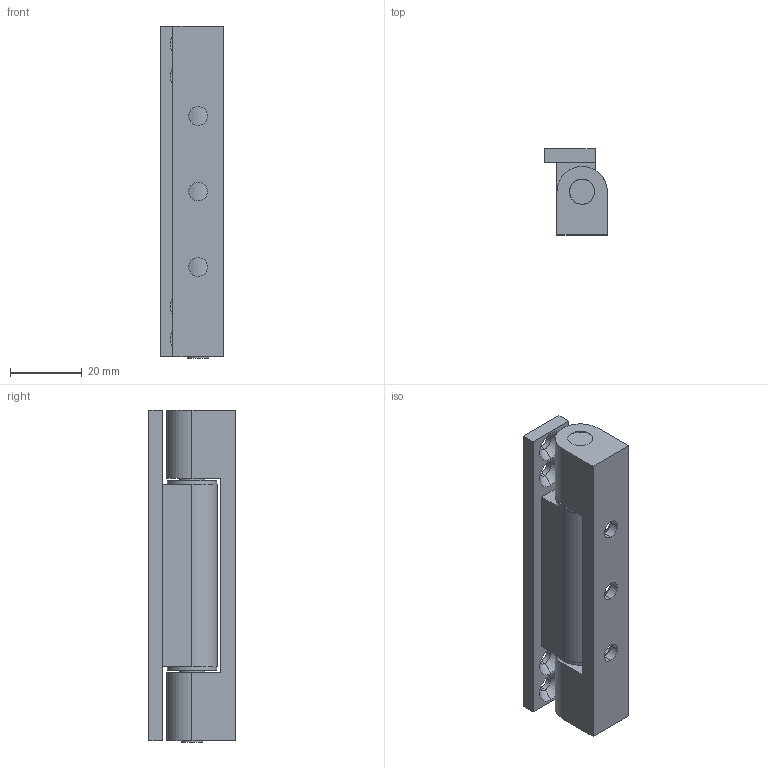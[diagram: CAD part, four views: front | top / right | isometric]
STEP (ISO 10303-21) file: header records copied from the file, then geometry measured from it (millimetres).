
FILE_DESCRIPTION (( 'STEP AP203' ), '1' );
FILE_NAME ('XG02-081-1.STEP', '2023-12-11T03:14:42', ( '' ), ( '' ), 'SwSTEP 2.0', 'SolidWorks 2020', '' );
FILE_SCHEMA (( 'CONFIG_CONTROL_DESIGN' ));
Length unit declared in the file: millimetre
Products named in the file (5): HL027-3; HL027-2; XG02-081-1; HL027-1; HL027-4
Assembly tree (5 placements, depth 2):
  XG02-081-1
    HL027-1
    HL027-2
    HL027-3
    HL027-4  x2
Bounding box: 17.4 x 24 x 92.3 mm (x, y, z)
Volume: 25235.7 mm3; surface area: 15660.6 mm2
Topology: 5 solids, 5 shells, 92 faces, 211 edges, 136 vertices
Faces by surface type: cylinder 48, plane 30, cone 14
Entity records: 2992 total; most frequent: DIRECTION 473, CARTESIAN_POINT 408, ORIENTED_EDGE 386, EDGE_CURVE 193, AXIS2_PLACEMENT_3D 189, VERTEX_POINT 124, EDGE_LOOP 111, CIRCLE 98
